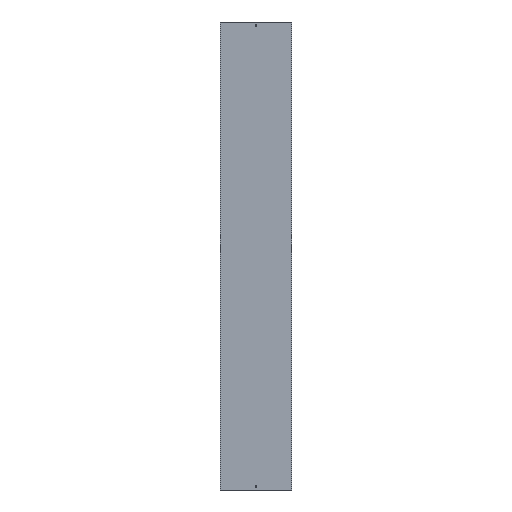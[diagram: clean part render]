
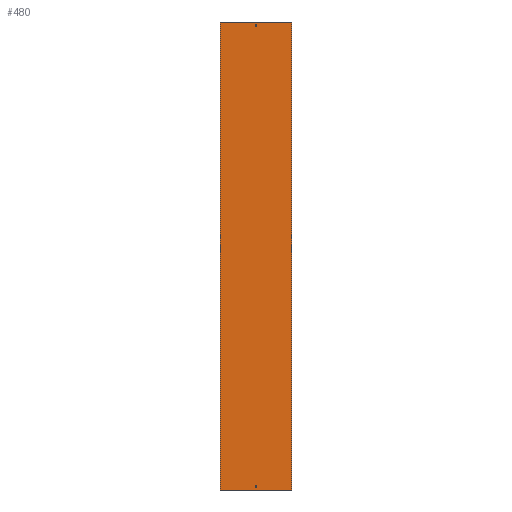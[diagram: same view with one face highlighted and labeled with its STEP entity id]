
A CAD part, front view. The second image highlights one B-rep face of the part: STEP entity #480.
In plain terms, the highlighted planar face has unit normal (0, -1, 0).
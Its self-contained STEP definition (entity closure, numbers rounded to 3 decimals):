
#3 = ORIENTED_EDGE ( 'NONE', *, *, #220, .T. ) ;
#15 = LINE ( 'NONE', #219, #1067 ) ;
#27 = CARTESIAN_POINT ( 'NONE',  ( 3.25, 0., 988. ) ) ;
#47 = DIRECTION ( 'NONE',  ( 0., 0., -1. ) ) ;
#51 = DIRECTION ( 'NONE',  ( 0., 0., -1. ) ) ;
#52 = DIRECTION ( 'NONE',  ( -1., 0., 0. ) ) ;
#60 = VECTOR ( 'NONE', #152, 1000. ) ;
#66 = ORIENTED_EDGE ( 'NONE', *, *, #989, .F. ) ;
#70 = VERTEX_POINT ( 'NONE', #975 ) ;
#71 = EDGE_CURVE ( 'NONE', #847, #979, #15, .T. ) ;
#85 = VERTEX_POINT ( 'NONE', #662 ) ;
#87 = ORIENTED_EDGE ( 'NONE', *, *, #1127, .F. ) ;
#97 = ORIENTED_EDGE ( 'NONE', *, *, #500, .F. ) ;
#113 = DIRECTION ( 'NONE',  ( 1., 0., 0. ) ) ;
#138 = VECTOR ( 'NONE', #1056, 1000. ) ;
#142 = FACE_BOUND ( 'NONE', #549, .T. ) ;
#152 = DIRECTION ( 'NONE',  ( 1., 0., 0. ) ) ;
#159 = EDGE_CURVE ( 'NONE', #262, #388, #650, .T. ) ;
#164 = CARTESIAN_POINT ( 'NONE',  ( 152., 0., 1000. ) ) ;
#188 = LINE ( 'NONE', #463, #381 ) ;
#192 = AXIS2_PLACEMENT_3D ( 'NONE', #411, #589, #675 ) ;
#196 = EDGE_CURVE ( 'NONE', #388, #979, #200, .T. ) ;
#197 = CARTESIAN_POINT ( 'NONE',  ( -3.25, 0., 988. ) ) ;
#200 = LINE ( 'NONE', #555, #525 ) ;
#219 = CARTESIAN_POINT ( 'NONE',  ( 152., 0., 1000. ) ) ;
#220 = EDGE_CURVE ( 'NONE', #70, #1038, #854, .T. ) ;
#224 = DIRECTION ( 'NONE',  ( 1., 0., 0. ) ) ;
#227 = EDGE_CURVE ( 'NONE', #684, #70, #405, .T. ) ;
#238 = CARTESIAN_POINT ( 'NONE',  ( -3.25, 0., -979. ) ) ;
#241 = VERTEX_POINT ( 'NONE', #497 ) ;
#262 = VERTEX_POINT ( 'NONE', #687 ) ;
#267 = CARTESIAN_POINT ( 'NONE',  ( -3.25, 0., -979. ) ) ;
#282 = VECTOR ( 'NONE', #52, 1000. ) ;
#297 = CARTESIAN_POINT ( 'NONE',  ( -152., 0., 1000. ) ) ;
#299 = VECTOR ( 'NONE', #51, 1000. ) ;
#334 = CARTESIAN_POINT ( 'NONE',  ( -3.25, 0., 988. ) ) ;
#338 = VECTOR ( 'NONE', #224, 1000. ) ;
#359 = VERTEX_POINT ( 'NONE', #729 ) ;
#364 = LINE ( 'NONE', #197, #769 ) ;
#368 = CARTESIAN_POINT ( 'NONE',  ( 3.25, 0., -988. ) ) ;
#381 = VECTOR ( 'NONE', #818, 1000. ) ;
#382 = LINE ( 'NONE', #644, #1070 ) ;
#388 = VERTEX_POINT ( 'NONE', #952 ) ;
#395 = DIRECTION ( 'NONE',  ( 0., 0., -1. ) ) ;
#400 = EDGE_LOOP ( 'NONE', ( #625, #775, #87, #1028 ) ) ;
#405 = LINE ( 'NONE', #238, #60 ) ;
#411 = CARTESIAN_POINT ( 'NONE',  ( -152., 0., 1000. ) ) ;
#454 = CARTESIAN_POINT ( 'NONE',  ( -3.25, 0., -988. ) ) ;
#463 = CARTESIAN_POINT ( 'NONE',  ( -3.25, 0., -988. ) ) ;
#480 = ADVANCED_FACE ( 'NONE', ( #594, #142, #688 ), #772, .F. ) ;
#497 = CARTESIAN_POINT ( 'NONE',  ( -3.25, 0., -988. ) ) ;
#500 = EDGE_CURVE ( 'NONE', #1117, #85, #850, .T. ) ;
#511 = VECTOR ( 'NONE', #395, 1000. ) ;
#515 = EDGE_LOOP ( 'NONE', ( #985, #797, #3, #1101 ) ) ;
#525 = VECTOR ( 'NONE', #113, 1000. ) ;
#549 = EDGE_LOOP ( 'NONE', ( #66, #888, #97, #991 ) ) ;
#555 = CARTESIAN_POINT ( 'NONE',  ( -152., 0., -1000. ) ) ;
#558 = LINE ( 'NONE', #1069, #138 ) ;
#589 = DIRECTION ( 'NONE',  ( 0., 1., 0. ) ) ;
#594 = FACE_OUTER_BOUND ( 'NONE', #400, .T. ) ;
#625 = ORIENTED_EDGE ( 'NONE', *, *, #196, .T. ) ;
#626 = DIRECTION ( 'NONE',  ( 0., 0., 1. ) ) ;
#632 = VERTEX_POINT ( 'NONE', #800 ) ;
#644 = CARTESIAN_POINT ( 'NONE',  ( -152., 0., 1000. ) ) ;
#650 = LINE ( 'NONE', #297, #511 ) ;
#662 = CARTESIAN_POINT ( 'NONE',  ( -3.25, 0., 988. ) ) ;
#667 = CARTESIAN_POINT ( 'NONE',  ( 152., 0., -1000. ) ) ;
#673 = CARTESIAN_POINT ( 'NONE',  ( 3.25, 0., -988. ) ) ;
#675 = DIRECTION ( 'NONE',  ( -1., 0., 0. ) ) ;
#684 = VERTEX_POINT ( 'NONE', #267 ) ;
#687 = CARTESIAN_POINT ( 'NONE',  ( -152., 0., 1000. ) ) ;
#688 = FACE_BOUND ( 'NONE', #515, .T. ) ;
#690 = EDGE_CURVE ( 'NONE', #241, #684, #1134, .T. ) ;
#717 = DIRECTION ( 'NONE',  ( 0., 0., -1. ) ) ;
#729 = CARTESIAN_POINT ( 'NONE',  ( 3.25, 0., 979. ) ) ;
#737 = DIRECTION ( 'NONE',  ( 1., 0., 0. ) ) ;
#769 = VECTOR ( 'NONE', #717, 1000. ) ;
#772 = PLANE ( 'NONE',  #192 ) ;
#775 = ORIENTED_EDGE ( 'NONE', *, *, #71, .F. ) ;
#797 = ORIENTED_EDGE ( 'NONE', *, *, #227, .T. ) ;
#800 = CARTESIAN_POINT ( 'NONE',  ( -3.25, 0., 979. ) ) ;
#818 = DIRECTION ( 'NONE',  ( -1., 0., 0. ) ) ;
#825 = VECTOR ( 'NONE', #626, 1000. ) ;
#841 = LINE ( 'NONE', #1008, #338 ) ;
#847 = VERTEX_POINT ( 'NONE', #164 ) ;
#850 = LINE ( 'NONE', #334, #282 ) ;
#854 = LINE ( 'NONE', #673, #299 ) ;
#888 = ORIENTED_EDGE ( 'NONE', *, *, #1043, .F. ) ;
#952 = CARTESIAN_POINT ( 'NONE',  ( -152., 0., -1000. ) ) ;
#975 = CARTESIAN_POINT ( 'NONE',  ( 3.25, 0., -979. ) ) ;
#979 = VERTEX_POINT ( 'NONE', #667 ) ;
#985 = ORIENTED_EDGE ( 'NONE', *, *, #690, .T. ) ;
#989 = EDGE_CURVE ( 'NONE', #632, #359, #841, .T. ) ;
#991 = ORIENTED_EDGE ( 'NONE', *, *, #1098, .F. ) ;
#1008 = CARTESIAN_POINT ( 'NONE',  ( -3.25, 0., 979. ) ) ;
#1028 = ORIENTED_EDGE ( 'NONE', *, *, #159, .T. ) ;
#1038 = VERTEX_POINT ( 'NONE', #368 ) ;
#1043 = EDGE_CURVE ( 'NONE', #85, #632, #364, .T. ) ;
#1056 = DIRECTION ( 'NONE',  ( 0., 0., 1. ) ) ;
#1067 = VECTOR ( 'NONE', #47, 1000. ) ;
#1069 = CARTESIAN_POINT ( 'NONE',  ( 3.25, 0., 988. ) ) ;
#1070 = VECTOR ( 'NONE', #737, 1000. ) ;
#1098 = EDGE_CURVE ( 'NONE', #359, #1117, #558, .T. ) ;
#1101 = ORIENTED_EDGE ( 'NONE', *, *, #1120, .T. ) ;
#1117 = VERTEX_POINT ( 'NONE', #27 ) ;
#1120 = EDGE_CURVE ( 'NONE', #1038, #241, #188, .T. ) ;
#1127 = EDGE_CURVE ( 'NONE', #262, #847, #382, .T. ) ;
#1134 = LINE ( 'NONE', #454, #825 ) ;
